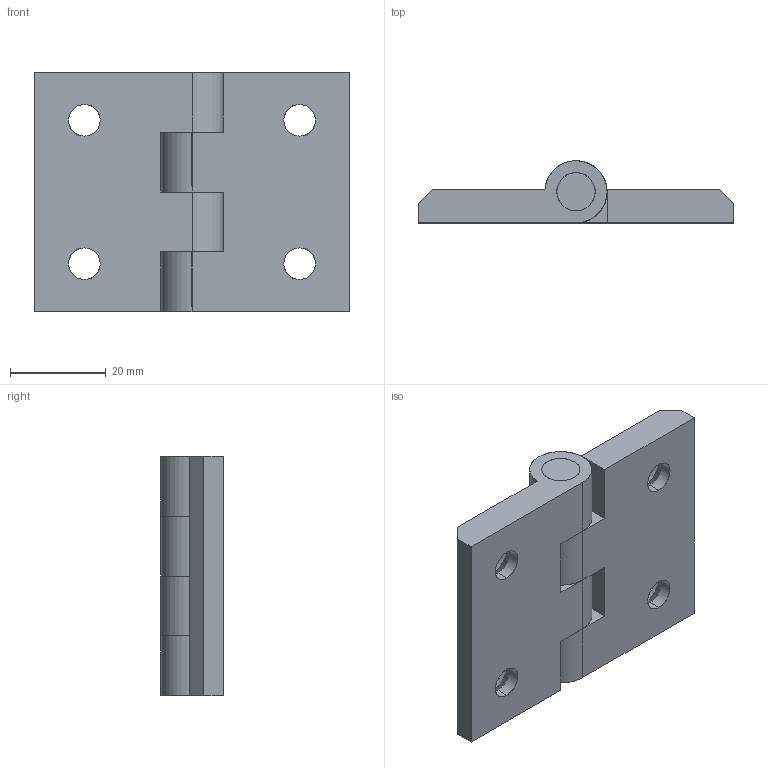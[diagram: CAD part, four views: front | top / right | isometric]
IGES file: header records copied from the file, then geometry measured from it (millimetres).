
Start section: SolidWorks IGES file using analytic representation for surfaces
Global section: file name: D:\LETROMEC CATALOGUE\Hinge\LIMA-HZC45X45-10\LIMA-HZC45X45.IGS; native system: SolidWorks 2013; preprocessor: SolidWorks 2013; author: User; date: 180315.205703; units: millimetre
Bounding box: 66 x 12.99 x 50 mm (x, y, z)
Surface area: 12365.8 mm2 (no closed solid volume)
Topology: 0 solids, 0 shells, 62 faces, 1080 edges, 1080 vertices
Faces by surface type: revolution 38, bspline 24
